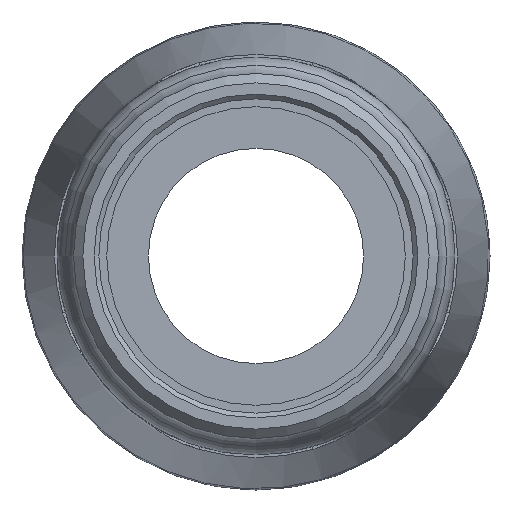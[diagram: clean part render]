
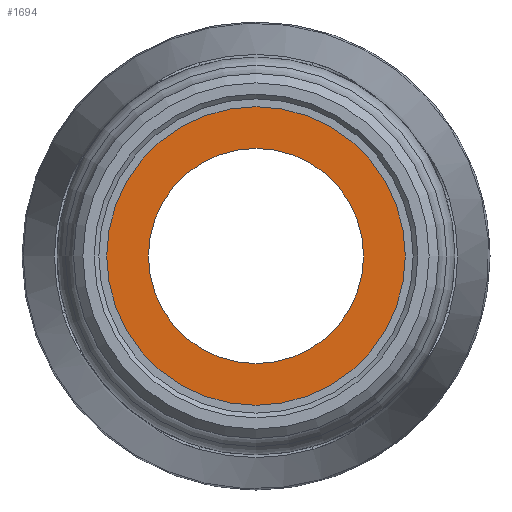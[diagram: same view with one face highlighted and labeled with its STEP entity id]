
A CAD part, left-side view. The second image highlights one B-rep face of the part: STEP entity #1694.
In plain terms, the highlighted planar face has unit normal (-1, 0, 0).
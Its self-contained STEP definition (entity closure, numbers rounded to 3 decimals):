
#40=FACE_BOUND('',#487,.T.);
#262=PLANE('',#1892);
#365=FACE_OUTER_BOUND('',#486,.T.);
#486=EDGE_LOOP('',(#1552));
#487=EDGE_LOOP('',(#1553));
#583=CIRCLE('',#1891,13.333);
#584=CIRCLE('',#1893,18.502);
#817=VERTEX_POINT('',#3837);
#818=VERTEX_POINT('',#3840);
#1063=EDGE_CURVE('',#817,#817,#583,.T.);
#1064=EDGE_CURVE('',#818,#818,#584,.T.);
#1552=ORIENTED_EDGE('',*,*,#1064,.F.);
#1553=ORIENTED_EDGE('',*,*,#1063,.T.);
#1694=ADVANCED_FACE('',(#365,#40),#262,.T.);
#1891=AXIS2_PLACEMENT_3D('',#3838,#2363,#2364);
#1892=AXIS2_PLACEMENT_3D('',#3839,#2365,#2366);
#1893=AXIS2_PLACEMENT_3D('',#3841,#2367,#2368);
#2363=DIRECTION('center_axis',(1.,0.,0.));
#2364=DIRECTION('ref_axis',(0.,0.,-1.));
#2365=DIRECTION('center_axis',(-1.,0.,0.));
#2366=DIRECTION('ref_axis',(0.,0.,1.));
#2367=DIRECTION('center_axis',(1.,0.,0.));
#2368=DIRECTION('ref_axis',(0.,0.,-1.));
#3837=CARTESIAN_POINT('',(23.69,13.333,0.));
#3838=CARTESIAN_POINT('Origin',(23.69,0.,0.));
#3839=CARTESIAN_POINT('Origin',(23.69,18.502,0.));
#3840=CARTESIAN_POINT('',(23.69,18.502,0.));
#3841=CARTESIAN_POINT('Origin',(23.69,0.,0.));
